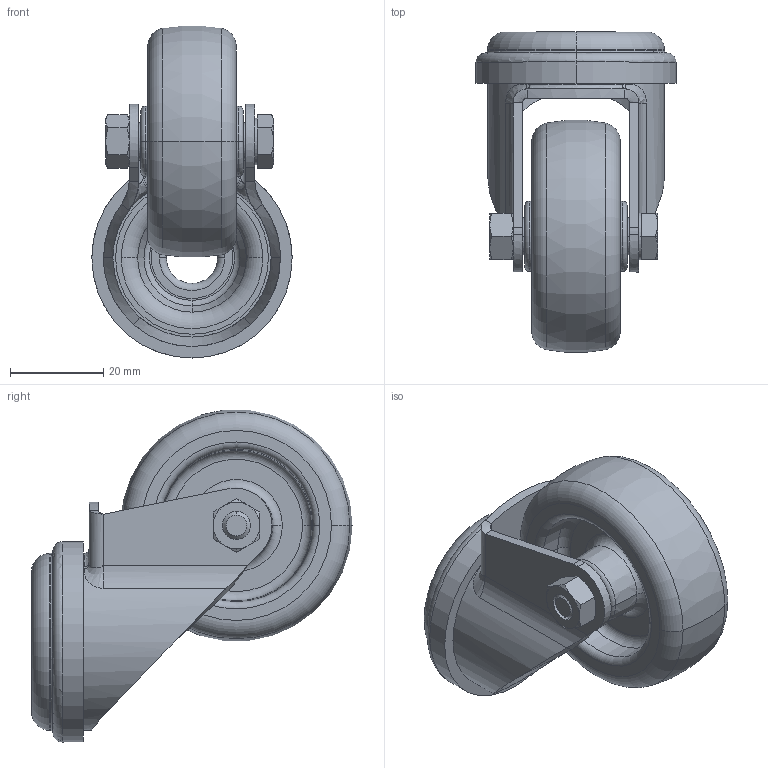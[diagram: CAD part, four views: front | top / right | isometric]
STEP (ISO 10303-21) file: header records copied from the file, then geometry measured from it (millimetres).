
FILE_DESCRIPTION (( 'STEP AP214' ), '1' );
FILE_NAME ('LRXA-TPA_50G_753563-214.step', '2012-12-15T09:41:20', ( '' ), ( '' ), 'SwSTEP 2.0', 'SolidWorks 2011', '' );
FILE_SCHEMA (( 'AUTOMOTIVE_DESIGN' ));
Length unit declared in the file: millimetre
Products named in the file (5): GH-LRXA_050_G15; AM_LPA_06x27_D8; TPA-G_G15_TPA_50_8G; TPA_G15_TPA_50_8G_380030; LRXA-TPA_50G_753563-214
Assembly tree (4 placements, depth 3):
  LRXA-TPA_50G_753563-214
    GH-LRXA_050_G15
    TPA_G15_TPA_50_8G_380030
      TPA-G_G15_TPA_50_8G
    AM_LPA_06x27_D8
Bounding box: 43 x 68.92 x 71.29 mm (x, y, z)
Volume: 44575 mm3; surface area: 20377.9 mm2
Topology: 3 solids, 3 shells, 699 faces, 1815 edges, 1181 vertices
Faces by surface type: plane 364, bspline 218, cone 43, torus 39, cylinder 35
Entity records: 40402 total; most frequent: CARTESIAN_POINT 16910, ORIENTED_EDGE 3630, DIRECTION 2494, EDGE_CURVE 1815, VERTEX_POINT 1181, VECTOR 1118, LINE 1118, EDGE_LOOP 762
